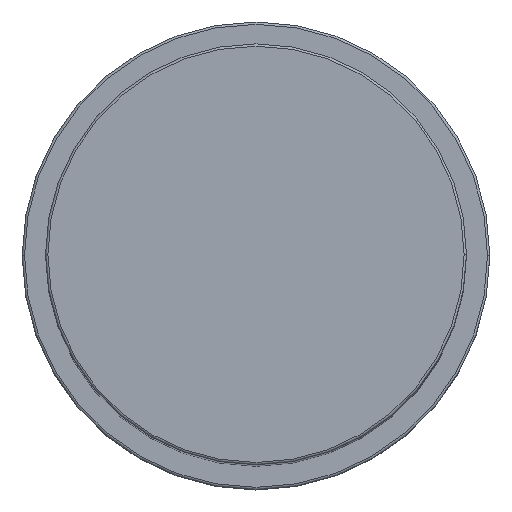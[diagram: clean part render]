
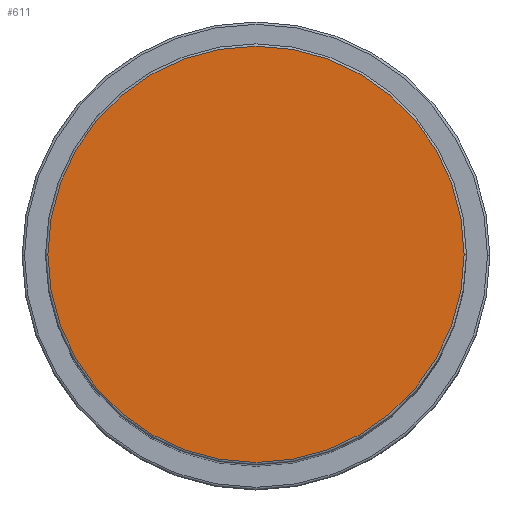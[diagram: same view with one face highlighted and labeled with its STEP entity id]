
A CAD part, top view. The second image highlights one B-rep face of the part: STEP entity #611.
In plain terms, the highlighted planar face has unit normal (0, 0, 1).
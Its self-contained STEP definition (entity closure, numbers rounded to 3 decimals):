
#159 = DIRECTION ( 'NONE',  ( 0., 0., 1. ) ) ;
#160 = ORIENTED_EDGE ( 'NONE', *, *, #1274, .T. ) ;
#213 = ORIENTED_EDGE ( 'NONE', *, *, #946, .T. ) ;
#536 = VERTEX_POINT ( 'NONE', #753 ) ;
#611 = ADVANCED_FACE ( 'NONE', ( #1529 ), #786, .T. ) ;
#639 = AXIS2_PLACEMENT_3D ( 'NONE', #1659, #1300, #1533 ) ;
#702 = CARTESIAN_POINT ( 'NONE',  ( -44.5, 0., 204. ) ) ;
#742 = DIRECTION ( 'NONE',  ( 0., 0., 1. ) ) ;
#753 = CARTESIAN_POINT ( 'NONE',  ( 44.5, 0., 204. ) ) ;
#786 = PLANE ( 'NONE',  #639 ) ;
#790 = VERTEX_POINT ( 'NONE', #702 ) ;
#913 = CIRCLE ( 'NONE', #961, 44.5 ) ;
#946 = EDGE_CURVE ( 'NONE', #536, #790, #913, .T. ) ;
#961 = AXIS2_PLACEMENT_3D ( 'NONE', #1360, #742, #1115 ) ;
#1013 = CIRCLE ( 'NONE', #1166, 44.5 ) ;
#1115 = DIRECTION ( 'NONE',  ( 1., 0., 0. ) ) ;
#1166 = AXIS2_PLACEMENT_3D ( 'NONE', #1312, #159, #1182 ) ;
#1182 = DIRECTION ( 'NONE',  ( 1., 0., 0. ) ) ;
#1274 = EDGE_CURVE ( 'NONE', #790, #536, #1013, .T. ) ;
#1300 = DIRECTION ( 'NONE',  ( 0., 0., 1. ) ) ;
#1312 = CARTESIAN_POINT ( 'NONE',  ( 0., 0., 204. ) ) ;
#1360 = CARTESIAN_POINT ( 'NONE',  ( 0., 0., 204. ) ) ;
#1529 = FACE_OUTER_BOUND ( 'NONE', #1625, .T. ) ;
#1533 = DIRECTION ( 'NONE',  ( 1., 0., 0. ) ) ;
#1625 = EDGE_LOOP ( 'NONE', ( #213, #160 ) ) ;
#1659 = CARTESIAN_POINT ( 'NONE',  ( 0., 0., 204. ) ) ;
